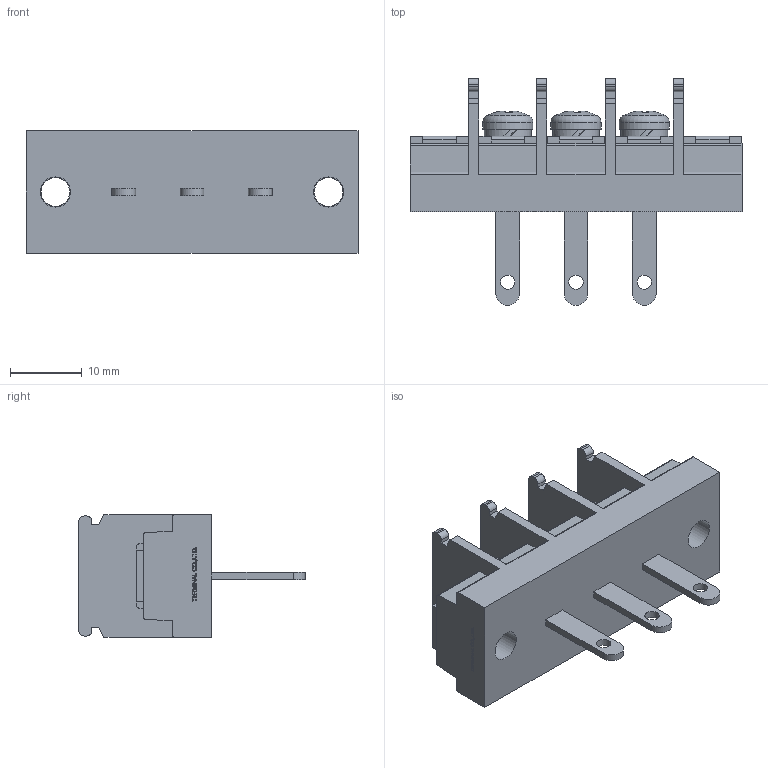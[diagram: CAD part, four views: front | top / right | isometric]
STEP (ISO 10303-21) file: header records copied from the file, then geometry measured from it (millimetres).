
FILE_DESCRIPTION(/* description */ ('Alibre Inc.'),/* implementation_level */ '2;1');
FILE_NAME(/* name */ 'export-7A90648E-05DA-4416-B563-694B0D70823E',/* time_stamp */ '2020-11-07T15:33:01+09:00',/* author */ (''),/* organization */ (''),/* preprocessor_version */ 'ST-DEVELOPER v17',/* originating_system */ 'Alibre',/* authorisation */ '');
FILE_SCHEMA (('CONFIG_CONTROL_DESIGN'));
Length unit declared in the file: millimetre
Bounding box: 46.2 x 31.5 x 17 mm (x, y, z)
Volume: 7908.7 mm3; surface area: 5438 mm2
Topology: 1 solids, 4 shells, 698 faces, 1901 edges, 1264 vertices
Faces by surface type: plane 502, bspline 104, cylinder 68, cone 15, torus 6, sphere 3
Full cylindrical faces by diameter (mm): 2 x3, 4 x8, 4.2 x2, 6.5 x3, 7 x3
Entity records: 21203 total; most frequent: CARTESIAN_POINT 4795, ORIENTED_EDGE 3718, DIRECTION 2507, EDGE_CURVE 1859, VECTOR 1368, LINE 1368, VERTEX_POINT 1247, AXIS2_PLACEMENT_3D 812
